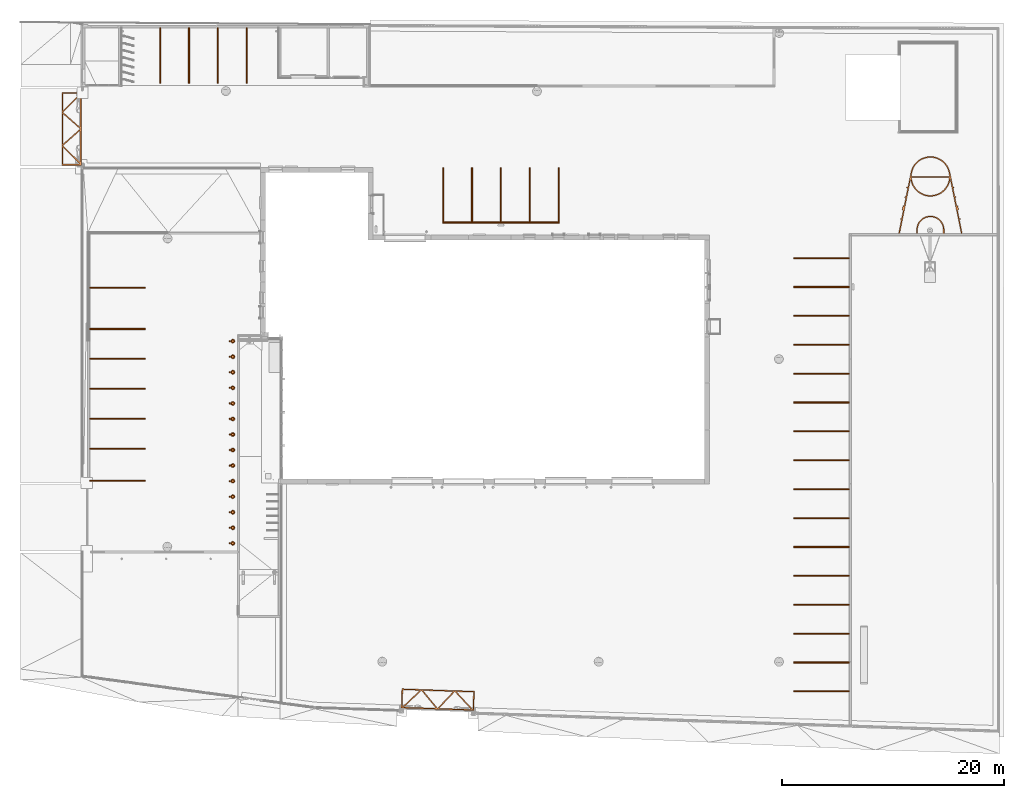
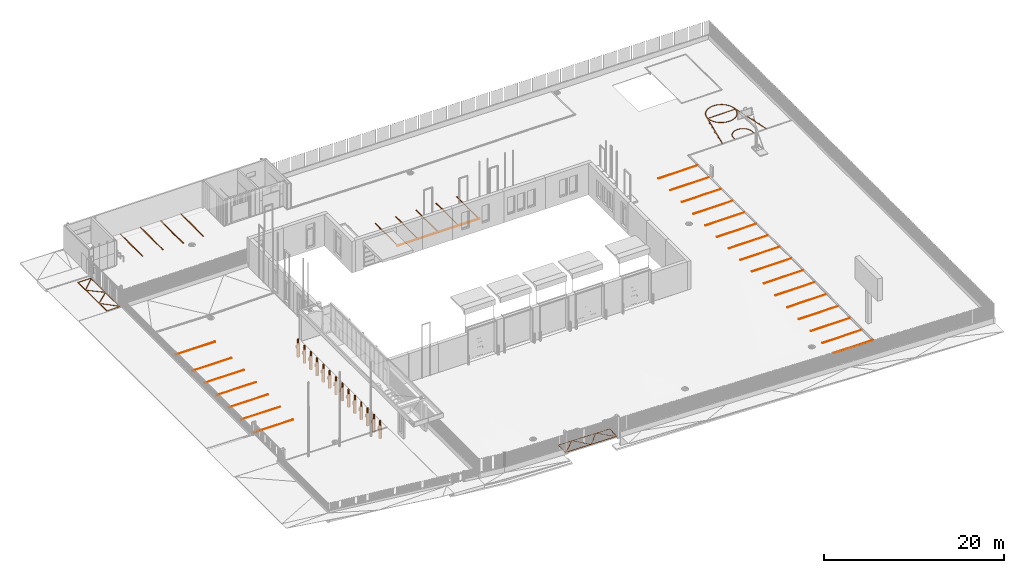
# One storey, part 76 of 77: 50 proxies.
"""IFC2X3 building model written with IfcOpenShell, lengths in millimetres."""

from ifc_helpers import new_model, entity, si_unit, converted_unit, derived_unit, direction, frame, frame_2d, origin, origin_2d_with_axis, place, context, subcontext, project, spatial, polyline, circle_curve, parameter, trimmed, segment, composite_curve, rectangle, circle, hollow_circle, outline, extrude, source, transform, mapped, material, material_list, type_object, type_shapes, element, save


model = new_model("IFC2X3")

# Units and contexts
model_context = context("Model", 3, precision=0.01, world=origin(), true_north=direction((6.12303176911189e-17, 1.0)))
body_context = subcontext(model_context, "Body", "Model", "MODEL_VIEW")
ifc_project = project(units=[si_unit("LENGTHUNIT", "METRE", prefix="MILLI"), si_unit("AREAUNIT", "SQUARE_METRE"), si_unit("VOLUMEUNIT", "CUBIC_METRE"), converted_unit("PLANEANGLEUNIT", "DEGREE", entity("IfcRatioMeasure", 0.0174532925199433), si_unit("PLANEANGLEUNIT", "RADIAN"), dimensions=[0, 0, 0, 0, 0, 0, 0]), si_unit("MASSUNIT", "GRAM", prefix="KILO"), derived_unit("MASSDENSITYUNIT", [(si_unit("MASSUNIT", "GRAM", prefix="KILO"), 1), (si_unit("LENGTHUNIT", "METRE"), -3)]), si_unit("TIMEUNIT", "SECOND"), si_unit("FREQUENCYUNIT", "HERTZ"), si_unit("THERMODYNAMICTEMPERATUREUNIT", "DEGREE_CELSIUS"), derived_unit("THERMALTRANSMITTANCEUNIT", [(si_unit("MASSUNIT", "GRAM", prefix="KILO"), 1), (si_unit("THERMODYNAMICTEMPERATUREUNIT", "KELVIN"), -1), (si_unit("TIMEUNIT", "SECOND"), -3)]), derived_unit("VOLUMETRICFLOWRATEUNIT", [(si_unit("LENGTHUNIT", "METRE"), 3), (si_unit("TIMEUNIT", "SECOND"), -1)]), si_unit("ELECTRICCURRENTUNIT", "AMPERE"), si_unit("ELECTRICVOLTAGEUNIT", "VOLT"), si_unit("POWERUNIT", "WATT"), si_unit("FORCEUNIT", "NEWTON", prefix="KILO"), si_unit("ILLUMINANCEUNIT", "LUX"), si_unit("LUMINOUSFLUXUNIT", "LUMEN"), si_unit("LUMINOUSINTENSITYUNIT", "CANDELA"), derived_unit("USERDEFINED", [(si_unit("MASSUNIT", "GRAM", prefix="KILO"), -1), (si_unit("LENGTHUNIT", "METRE"), -2), (si_unit("TIMEUNIT", "SECOND"), 3), (si_unit("LUMINOUSFLUXUNIT", "LUMEN"), 1)]), derived_unit("LINEARVELOCITYUNIT", [(si_unit("LENGTHUNIT", "METRE"), 1), (si_unit("TIMEUNIT", "SECOND"), -1)]), si_unit("PRESSUREUNIT", "PASCAL"), derived_unit("USERDEFINED", [(si_unit("LENGTHUNIT", "METRE"), -2), (si_unit("MASSUNIT", "GRAM", prefix="KILO"), 1), (si_unit("TIMEUNIT", "SECOND"), -2)])], contexts=[model_context])

# Site, building, storey
site_placement = place(None, origin())
site = spatial("IfcSite", under=ifc_project, at=site_placement, Name="Default", CompositionType="ELEMENT")
building_placement = place(site_placement, origin())
building = spatial("IfcBuilding", under=site, at=building_placement, CompositionType="ELEMENT")
storey_placement = place(building_placement, origin())
storey = spatial("IfcBuildingStorey", under=building, at=storey_placement, Name="1. KORRUS", CompositionType="ELEMENT", Elevation=0.0)

# Proxies
ifc_material_1 = material(Name="teekattemärgistus")
building_element_proxy_type_1 = type_object("IfcBuildingElementProxyType", Name="parkimine5m", PredefinedType="NOTDEFINED", material=ifc_material_1)
shared_shape_1 = source(origin(), body_context, "Body", "SweptSolid", [
    extrude(rectangle(XDim=99.9999999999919, YDim=5000.0, at=frame_2d((2.01438865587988e-12, 0.0), x_axis=(1.0, 0.0))), frame((0.0, -2500.0, 0.0), z_axis=(0.0, 0.0, 1.0), x_axis=(-1.0, 0.0, 0.0)), (0.0, 0.0, 1.0), 20.0),
])
type_shapes(building_element_proxy_type_1, [shared_shape_1])
for number, where, z_axis, x_axis, name in (
    (1, (-15848.8939697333, -150.0, -130.0), (0.0, 0.0, 1.0), (0.0, 1.0, 0.0), "parkimine5m:parkimine5m"),
    (2, (52550.0, -19125.5959184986, -31.2942237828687), (0.0, 0.0, 1.0), (0.0, -1.0, 0.0), "parkimine5m:parkimine5m"),
    (3, (52550.0, -16525.5959184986, -258.677233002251), (0.0, 0.0, 1.0), (0.0, -1.0, 0.0), "parkimine5m:parkimine5m"),
    (4, (52550.0, -13925.5959184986, -222.883938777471), (0.0, 0.0, 1.0), (0.0, -1.0, 0.0), "parkimine5m:parkimine5m"),
    (5, (52550.0, -11325.5959184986, -182.383938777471), (0.0, 0.0, 1.0), (0.0, -1.0, 0.0), "parkimine5m:parkimine5m"),
    (6, (52550.0, -8725.59591849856, -143.383938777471), (0.0, 0.0, 1.0), (0.0, -1.0, 0.0), "parkimine5m:parkimine5m"),
    (7, (52550.0, -6125.59591849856, -104.383938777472), (0.0, 0.0, 1.0), (0.0, -1.0, 0.0), "parkimine5m:parkimine5m"),
    (8, (52550.0, -3525.59591849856, -66.8839387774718), (0.0, 0.0, 1.0), (0.0, -1.0, 0.0), "parkimine5m:parkimine5m"),
    (9, (52550.0, -925.595918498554, -27.8839387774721), (0.0, 0.0, 1.0), (0.0, -1.0, 0.0), "parkimine5m:parkimine5m"),
    (10, (52550.0, 1674.40408150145, -37.4728899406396), (0.0, 0.0, 1.0), (0.0, -1.0, 0.0), "parkimine5m:parkimine5m"),
    (11, (52550.0, 4274.40408150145, -58.3657470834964), (0.0, 0.0, 1.0), (0.0, -1.0, 0.0), "parkimine5m:parkimine5m"),
    (12, (52550.0, 6874.40408150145, -79.2586042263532), (0.0, 0.0, 1.0), (0.0, -1.0, 0.0), "parkimine5m:parkimine5m"),
    (13, (52550.0, 9474.40408150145, -100.15146136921), (0.0, 0.0, 1.0), (0.0, -1.0, 0.0), "parkimine5m:parkimine5m"),
    (14, (52550.0, 12074.4040815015, -99.7592529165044), (0.0, 0.0, 1.0), (0.0, -1.0, 0.0), "parkimine5m:parkimine5m"),
    (15, (52550.0, 14674.4040815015, -78.8663957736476), (0.0, 0.0, 1.0), (0.0, -1.0, 0.0), "parkimine5m:parkimine5m"),
    (16, (52550.0, 17274.4040815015, -57.9735386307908), (0.0, 0.0, 1.0), (0.0, -1.0, 0.0), "parkimine5m:parkimine5m"),
    (17, (52550.0, 19874.4040815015, -37.0806814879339), (0.0, 0.0, 1.0), (0.0, -1.0, 0.0), "parkimine5m:parkimine5m"),
):
    element("IfcBuildingElementProxy", number, at=place(storey_placement, frame(where, z_axis=z_axis, x_axis=x_axis)), inside=storey, type_object=building_element_proxy_type_1, material=ifc_material_1, Name=name, ObjectType="parkimine5m", context=body_context, shape_type="MappedRepresentation", body=[
        mapped(shared_shape_1, transform((0.0, 0.0, 0.0), scale=1.0)),
    ])
for number, where, name in (
    (18, (-9500.23518671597, 40600.0994344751, -120.147064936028), "parkimine5m:parkimine5m"),
    (19, (-6900.23518671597, 40600.0994344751, -142.22660545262), "parkimine5m:parkimine5m"),
    (20, (-4300.23518671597, 40600.0994344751, -164.306145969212), "parkimine5m:parkimine5m"),
):
    element("IfcBuildingElementProxy", number, at=place(storey_placement, frame(where)), inside=storey, type_object=building_element_proxy_type_1, material=ifc_material_1, Name=name, ObjectType="parkimine5m", context=body_context, shape_type="MappedRepresentation", body=[
        mapped(shared_shape_1, transform((0.0, 0.0, 0.0), scale=1.0)),
    ])
for number, where, z_axis, x_axis, name in (
    (21, (-15848.8939697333, 2700.0, -110.0), (0.0, 0.0, 1.0), (0.0, 1.0, 0.0), "parkimine5m:parkimine5m"),
    (22, (-15848.8939697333, 5400.0, -87.4848755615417), (0.0, 0.0, 1.0), (0.0, 1.0, 0.0), "parkimine5m:parkimine5m"),
    (23, (-15848.8939697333, 8100.0, -65.0), (0.0, 0.0, 1.0), (0.0, 1.0, 0.0), "parkimine5m:parkimine5m"),
    (24, (-15848.8939697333, 10800.0, -45.0), (0.0, 0.0, 1.0), (0.0, 1.0, 0.0), "parkimine5m:parkimine5m"),
    (25, (-15848.8939697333, 13500.0, -45.0), (0.0, 0.0, 1.0), (0.0, 1.0, 0.0), "parkimine5m:parkimine5m"),
    (26, (-15848.8939697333, 17200.0, -85.0), (0.0, 0.0, 1.0), (0.0, 1.0, 0.0), "parkimine5m:parkimine5m"),
):
    element("IfcBuildingElementProxy", number, at=place(storey_placement, frame(where, z_axis=z_axis, x_axis=x_axis)), inside=storey, type_object=building_element_proxy_type_1, material=ifc_material_1, Name=name, ObjectType="parkimine5m", context=body_context, shape_type="MappedRepresentation", body=[
        mapped(shared_shape_1, transform((0.0, 0.0, 0.0), scale=1.0)),
    ])
for number, where, name in (
    (27, (15980.0, 28030.0, -20.0), "parkimine5m:parkimine5m"),
    (28, (18580.0, 28030.0, -20.0), "parkimine5m:parkimine5m"),
    (29, (21180.0, 28030.0, -20.0), "parkimine5m:parkimine5m"),
    (30, (23780.0, 28030.0, -20.0), "parkimine5m:parkimine5m"),
    (31, (26380.0, 28030.0, -20.0), "parkimine5m:parkimine5m"),
    (32, (-1700.23518671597, 40600.0994344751, -153.8473731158), "parkimine5m:parkimine5m"),
):
    element("IfcBuildingElementProxy", number, at=place(storey_placement, frame(where)), inside=storey, type_object=building_element_proxy_type_1, material=ifc_material_1, Name=name, ObjectType="parkimine5m", context=body_context, shape_type="MappedRepresentation", body=[
        mapped(shared_shape_1, transform((0.0, 0.0, 0.0), scale=1.0)),
    ])
ifc_material_2 = material(Name="Metal - Tiso - Galvanized and powder coated")
ifc_material_3 = material(Name="Plastic - Tiso - Painted")
ifc_material_list_1 = material_list([ifc_material_2, ifc_material_3])
ifc_material_list_2 = material_list([ifc_material_2, ifc_material_3])
building_element_proxy_type_2 = type_object("IfcBuildingElementProxyType", Name="High security automatic bollard M30 (RB348)", PredefinedType="NOTDEFINED", material=ifc_material_list_2)
shared_shape_2 = source(origin(), body_context, "Body", "SweptSolid", [
    extrude(hollow_circle(Radius=60.0, WallThickness=40.0, at=frame_2d((6.01112009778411e-28, -9.69326744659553e-14), x_axis=(1.0, 0.0))), frame((0.0, 0.0, 0.0), z_axis=(0.0, 0.0, 1.0), x_axis=(0.0, 1.0, 0.0)), (0.0, 0.0, 1.0), 2.0),
    extrude(circle(Radius=190.0, at=frame_2d((-1.30769905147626e-14, -3.06953469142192e-13), x_axis=(1.0, 0.0))), frame((0.0, 0.0, -111.0), z_axis=(0.0, 0.0, 1.0), x_axis=(0.0, 1.0, 0.0)), (0.0, 0.0, 1.0), 111.0),
    extrude(circle(Radius=190.0, at=frame_2d((-1.14523447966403e-14, -3.06953469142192e-13), x_axis=(1.0, 0.0))), frame((0.0, 0.0, -1743.0), z_axis=(0.0, 0.0, 1.0), x_axis=(0.0, 1.0, 0.0)), (0.0, 0.0, 1.0), 1632.0),
    extrude(circle(Radius=110.0, at=frame_2d((3.82856826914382e-17, -1.77709903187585e-13), x_axis=(1.0, 0.0))), frame((0.0, 0.0, 2.0)), (0.0, 0.0, 1.0), 575.0),
    extrude(circle(Radius=110.0, at=frame_2d((0.0, -1.77709903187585e-13), x_axis=(1.0, 0.0))), frame((0.0, 0.0, 577.0)), (0.0, 0.0, 1.0), 23.0),
    extrude(circle(Radius=26.0, at=frame_2d((-1.32185928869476e-15, -1.35358391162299e-13), x_axis=(1.0, 0.0))), frame((-341.0, 0.0, -379.517404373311), z_axis=(1.0, 0.0, 0.0), x_axis=(0.0, 1.0, 0.0)), (0.0, 0.0, 1.0), 42.0),
    extrude(circle(Radius=26.0, at=frame_2d((-4.33703580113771e-28, -1.35358391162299e-13), x_axis=(1.0, 0.0))), frame((-341.0, 35.2097481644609, -459.517404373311), z_axis=(1.0, 0.0, 0.0), x_axis=(0.0, 1.0, 0.0)), (0.0, 0.0, 1.0), 42.0),
    extrude(circle(Radius=26.0, at=frame_2d((-4.33703580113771e-28, -1.35358391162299e-13), x_axis=(1.0, 0.0))), frame((-341.0, -35.2097481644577, -458.065397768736), z_axis=(1.0, 0.0, 0.0), x_axis=(0.0, 1.0, 0.0)), (0.0, 0.0, 1.0), 42.0),
    extrude(rectangle(XDim=109.0, YDim=158.419496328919, at=origin_2d_with_axis()), frame((-244.5, 0.0, -503.2), z_axis=(0.0, 0.0, 1.0), x_axis=(-1.0, 0.0, 0.0)), (0.0, 0.0, 1.0), 363.6),
])
type_shapes(building_element_proxy_type_2, [shared_shape_2])
proxy_1_placement = place(storey_placement, frame((-2950.07453708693, 12400.0, -175.0)))
element("IfcBuildingElementProxy", 33, at=proxy_1_placement, inside=storey, type_object=building_element_proxy_type_2, material=ifc_material_list_1, Name="bollard:High security automatic bollard M30 (RB348)", ObjectType="High security automatic bollard M30 (RB348)", context=body_context, shape_type="MappedRepresentation", body=[
    mapped(shared_shape_2, transform((0.0, 0.0, 0.0), scale=1.0)),
])
ifc_material_list_3 = material_list([ifc_material_2, ifc_material_3])
proxy_2_placement = place(storey_placement, frame((-2950.07453708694, 11000.0, -175.0)))
element("IfcBuildingElementProxy", 34, at=proxy_2_placement, inside=storey, type_object=building_element_proxy_type_2, material=ifc_material_list_3, Name="bollard:High security automatic bollard M30 (RB348)", ObjectType="High security automatic bollard M30 (RB348)", context=body_context, shape_type="MappedRepresentation", body=[
    mapped(shared_shape_2, transform((0.0, 0.0, 0.0), scale=1.0)),
])
ifc_material_list_4 = material_list([ifc_material_2, ifc_material_3])
proxy_3_placement = place(storey_placement, frame((-2950.07453708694, 9600.0, -175.0)))
element("IfcBuildingElementProxy", 35, at=proxy_3_placement, inside=storey, type_object=building_element_proxy_type_2, material=ifc_material_list_4, Name="bollard:High security automatic bollard M30 (RB348)", ObjectType="High security automatic bollard M30 (RB348)", context=body_context, shape_type="MappedRepresentation", body=[
    mapped(shared_shape_2, transform((0.0, 0.0, 0.0), scale=1.0)),
])
ifc_material_list_5 = material_list([ifc_material_2, ifc_material_3])
proxy_4_placement = place(storey_placement, frame((-2950.07453708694, 8200.0, -175.0)))
element("IfcBuildingElementProxy", 36, at=proxy_4_placement, inside=storey, type_object=building_element_proxy_type_2, material=ifc_material_list_5, Name="bollard:High security automatic bollard M30 (RB348)", ObjectType="High security automatic bollard M30 (RB348)", context=body_context, shape_type="MappedRepresentation", body=[
    mapped(shared_shape_2, transform((0.0, 0.0, 0.0), scale=1.0)),
])
ifc_material_list_6 = material_list([ifc_material_2, ifc_material_3])
proxy_5_placement = place(storey_placement, frame((-2950.07453708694, 6800.0, -175.0)))
element("IfcBuildingElementProxy", 37, at=proxy_5_placement, inside=storey, type_object=building_element_proxy_type_2, material=ifc_material_list_6, Name="bollard:High security automatic bollard M30 (RB348)", ObjectType="High security automatic bollard M30 (RB348)", context=body_context, shape_type="MappedRepresentation", body=[
    mapped(shared_shape_2, transform((0.0, 0.0, 0.0), scale=1.0)),
])
ifc_material_list_7 = material_list([ifc_material_2, ifc_material_3])
proxy_6_placement = place(storey_placement, frame((-2950.07453708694, 5400.0, -175.0)))
element("IfcBuildingElementProxy", 38, at=proxy_6_placement, inside=storey, type_object=building_element_proxy_type_2, material=ifc_material_list_7, Name="bollard:High security automatic bollard M30 (RB348)", ObjectType="High security automatic bollard M30 (RB348)", context=body_context, shape_type="MappedRepresentation", body=[
    mapped(shared_shape_2, transform((0.0, 0.0, 0.0), scale=1.0)),
])
ifc_material_list_8 = material_list([ifc_material_2, ifc_material_3])
proxy_7_placement = place(storey_placement, frame((-2950.07453708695, 4000.0, -175.0)))
element("IfcBuildingElementProxy", 39, at=proxy_7_placement, inside=storey, type_object=building_element_proxy_type_2, material=ifc_material_list_8, Name="bollard:High security automatic bollard M30 (RB348)", ObjectType="High security automatic bollard M30 (RB348)", context=body_context, shape_type="MappedRepresentation", body=[
    mapped(shared_shape_2, transform((0.0, 0.0, 0.0), scale=1.0)),
])
ifc_material_list_9 = material_list([ifc_material_2, ifc_material_3])
proxy_8_placement = place(storey_placement, frame((-2950.07453708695, 2600.0, -175.0)))
element("IfcBuildingElementProxy", 40, at=proxy_8_placement, inside=storey, type_object=building_element_proxy_type_2, material=ifc_material_list_9, Name="bollard:High security automatic bollard M30 (RB348)", ObjectType="High security automatic bollard M30 (RB348)", context=body_context, shape_type="MappedRepresentation", body=[
    mapped(shared_shape_2, transform((0.0, 0.0, 0.0), scale=1.0)),
])
ifc_material_list_10 = material_list([ifc_material_2, ifc_material_3])
proxy_9_placement = place(storey_placement, frame((-2950.07453708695, 1200.0, -175.0)))
element("IfcBuildingElementProxy", 41, at=proxy_9_placement, inside=storey, type_object=building_element_proxy_type_2, material=ifc_material_list_10, Name="bollard:High security automatic bollard M30 (RB348)", ObjectType="High security automatic bollard M30 (RB348)", context=body_context, shape_type="MappedRepresentation", body=[
    mapped(shared_shape_2, transform((0.0, 0.0, 0.0), scale=1.0)),
])
ifc_material_list_11 = material_list([ifc_material_2, ifc_material_3])
proxy_10_placement = place(storey_placement, frame((-2950.07453708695, -200.0, -175.0)))
element("IfcBuildingElementProxy", 42, at=proxy_10_placement, inside=storey, type_object=building_element_proxy_type_2, material=ifc_material_list_11, Name="bollard:High security automatic bollard M30 (RB348)", ObjectType="High security automatic bollard M30 (RB348)", context=body_context, shape_type="MappedRepresentation", body=[
    mapped(shared_shape_2, transform((0.0, 0.0, 0.0), scale=1.0)),
])
ifc_material_list_12 = material_list([ifc_material_2, ifc_material_3])
proxy_11_placement = place(storey_placement, frame((-2950.07453708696, -1600.0, -175.0)))
element("IfcBuildingElementProxy", 43, at=proxy_11_placement, inside=storey, type_object=building_element_proxy_type_2, material=ifc_material_list_12, Name="bollard:High security automatic bollard M30 (RB348)", ObjectType="High security automatic bollard M30 (RB348)", context=body_context, shape_type="MappedRepresentation", body=[
    mapped(shared_shape_2, transform((0.0, 0.0, 0.0), scale=1.0)),
])
ifc_material_list_13 = material_list([ifc_material_2, ifc_material_3])
proxy_12_placement = place(storey_placement, frame((-2950.07453708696, -3000.0, -175.0)))
element("IfcBuildingElementProxy", 44, at=proxy_12_placement, inside=storey, type_object=building_element_proxy_type_2, material=ifc_material_list_13, Name="bollard:High security automatic bollard M30 (RB348)", ObjectType="High security automatic bollard M30 (RB348)", context=body_context, shape_type="MappedRepresentation", body=[
    mapped(shared_shape_2, transform((0.0, 0.0, 0.0), scale=1.0)),
])
ifc_material_list_14 = material_list([ifc_material_2, ifc_material_3])
proxy_13_placement = place(storey_placement, frame((-2950.07453708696, -4400.0, -175.0)))
element("IfcBuildingElementProxy", 45, at=proxy_13_placement, inside=storey, type_object=building_element_proxy_type_2, material=ifc_material_list_14, Name="bollard:High security automatic bollard M30 (RB348)", ObjectType="High security automatic bollard M30 (RB348)", context=body_context, shape_type="MappedRepresentation", body=[
    mapped(shared_shape_2, transform((0.0, 0.0, 0.0), scale=1.0)),
])
ifc_material_list_15 = material_list([ifc_material_2, ifc_material_3])
proxy_14_placement = place(storey_placement, frame((-2950.07453708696, -5800.0, -175.0)))
element("IfcBuildingElementProxy", 46, at=proxy_14_placement, inside=storey, type_object=building_element_proxy_type_2, material=ifc_material_list_15, Name="bollard:High security automatic bollard M30 (RB348)", ObjectType="High security automatic bollard M30 (RB348)", context=body_context, shape_type="MappedRepresentation", body=[
    mapped(shared_shape_2, transform((0.0, 0.0, 0.0), scale=1.0)),
])
building_element_proxy_type_3 = type_object("IfcBuildingElementProxyType", Name="varav-teekate", PredefinedType="NOTDEFINED", material=ifc_material_1)
shared_shape_3 = source(origin(), body_context, "Body", "SweptSolid", [
    extrude(outline(polyline([(-875.0, -3275.0), (875.0, -3275.0), (875.0, 3275.0), (-875.0, 3275.0), (-875.0, -3275.0)]), holes=[polyline([(775.0, -3175.0), (-775.0, -3175.0), (-775.0, -1640.70664672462), (775.0, -3175.0)]), polyline([(775.0, 133.320857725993), (-775.0, 1500.0), (775.0, 3034.29335327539), (775.0, 133.320857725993)]), polyline([(-775.0, 1366.67914227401), (775.0, 0.0), (-775.0, -1366.67914227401), (-775.0, 1366.67914227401)]), polyline([(-775.0, -1500.0), (775.0, -133.320857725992), (775.0, -3034.29335327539), (-775.0, -1500.0)]), polyline([(-775.0, 1640.70664672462), (-775.0, 3175.0), (775.0, 3175.0), (-775.0, 1640.70664672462)])]), frame((2950.0, -875.0, 0.0), z_axis=(0.0, 0.0, 1.0), x_axis=(0.0, 1.0, 0.0)), (0.0, 0.0, 1.0), 20.0),
])
type_shapes(building_element_proxy_type_3, [shared_shape_3])
for number, where, z_axis, x_axis in (
    (47, (-16589.9580254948, 34455.066568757, -81.7707560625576), (0.0, 0.010589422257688, 0.99994393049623), (0.0, -0.999943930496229, 0.010589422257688)),
    (48, (18422.9531108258, -20845.2588051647, -194.634222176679), (-0.00869706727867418, 0.019488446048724, 0.999772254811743), (-0.999369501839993, 0.0342486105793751, -0.00936116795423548)),
):
    element("IfcBuildingElementProxy", number, at=place(storey_placement, frame(where, z_axis=z_axis, x_axis=x_axis)), inside=storey, type_object=building_element_proxy_type_3, material=ifc_material_1, Name="varav-teekate:varav-teekate", ObjectType="varav-teekate", context=body_context, shape_type="MappedRepresentation", body=[
        mapped(shared_shape_3, transform((0.0, 0.0, 0.0), scale=1.0)),
    ])
building_element_proxy_type_4 = type_object("IfcBuildingElementProxyType", Name="joon10,5", PredefinedType="NOTDEFINED", material=ifc_material_1)
shared_shape_4 = source(origin(), body_context, "Body", "SweptSolid", [
    extrude(rectangle(XDim=99.9999999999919, YDim=10500.0, at=origin_2d_with_axis()), frame((0.0, -5250.0, 0.0), z_axis=(0.0, 0.0, 1.0), x_axis=(-1.0, 0.0, 0.0)), (0.0, 0.0, 1.0), 20.0),
])
type_shapes(building_element_proxy_type_4, [shared_shape_4])
proxy_15_placement = place(storey_placement, frame((26430.0, 23080.0, -20.0), z_axis=(0.0, 0.0, 1.0), x_axis=(0.0, -1.0, 0.0)))
element("IfcBuildingElementProxy", 49, at=proxy_15_placement, inside=storey, type_object=building_element_proxy_type_4, material=ifc_material_1, Name="parkimine5m:joon10,5", ObjectType="joon10,5", context=body_context, shape_type="MappedRepresentation", body=[
    mapped(shared_shape_4, transform((0.0, 0.0, 0.0), scale=1.0)),
])
building_element_proxy_type_5 = type_object("IfcBuildingElementProxyType", Name="korvpalli-jooned", PredefinedType="NOTDEFINED", material=ifc_material_1)
shared_shape_5 = source(origin(), body_context, "Body", "SweptSolid", [
    extrude(outline(composite_curve([segment(polyline([(2274.80286137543, -1971.40901184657), (2374.80286137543, -1971.40901184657)]), True, "CONTINUOUS"), segment(polyline([(2374.80286137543, -1971.40901184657), (2374.80286137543, -1871.40901184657)]), True, "CONTINUOUS"), segment(polyline([(2374.80286137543, -1871.40901184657), (2274.80286137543, -1871.40901184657)]), True, "CONTINUOUS"), segment(polyline([(2274.80286137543, -1871.40901184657), (2274.80286137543, -1098.47471325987)]), True, "CONTINUOUS"), segment(polyline([(2274.80286137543, -1098.47471325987), (2374.80286137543, -1098.47471325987)]), True, "CONTINUOUS"), segment(polyline([(2374.80286137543, -1098.47471325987), (2374.80286137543, -698.474713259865)]), True, "CONTINUOUS"), segment(polyline([(2374.80286137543, -698.474713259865), (2274.80286137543, -698.474713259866)]), True, "CONTINUOUS"), segment(polyline([(2274.80286137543, -698.474713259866), (2274.80286137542, 68.4767248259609)]), True, "CONTINUOUS"), segment(polyline([(2274.80286137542, 68.4767248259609), (2374.80286137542, 68.4767248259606)]), True, "CONTINUOUS"), segment(polyline([(2374.80286137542, 68.4767248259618), (2374.80286137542, 168.476724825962)]), True, "CONTINUOUS"), segment(polyline([(2374.80286137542, 168.476724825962), (2274.80286137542, 168.47672482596)]), True, "CONTINUOUS"), segment(polyline([(2274.80286137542, 168.476724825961), (2274.80286137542, 935.428162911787)]), True, "CONTINUOUS"), segment(polyline([(2274.80286137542, 935.428162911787), (2374.80286137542, 935.428162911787)]), True, "CONTINUOUS"), segment(polyline([(2374.80286137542, 935.428162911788), (2374.80286137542, 1035.42816291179)]), True, "CONTINUOUS"), segment(polyline([(2374.80286137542, 1035.42816291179), (2274.80286137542, 1035.42816291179)]), True, "CONTINUOUS"), segment(polyline([(2274.80286137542, 1035.42816291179), (2274.80286137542, 2365.64718207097)]), True, "CONTINUOUS"), segment(trimmed(circle_curve(frame_2d((474.802861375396, 2365.64718207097), x_axis=(0.98044707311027, -0.19678296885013)), 1800.0), [parameter(11.3488985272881)], [parameter(168.651101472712)], True, "PARAMETER"), True, "CONTINUOUS"), segment(polyline([(-1185.79240603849, 3060.21421112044), (-1699.08477943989, 1833.01676232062)]), True, "CONTINUOUS"), segment(polyline([(-1699.08477943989, 1833.01676232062), (-1791.340072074, 1871.60381949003)]), True, "CONTINUOUS"), segment(polyline([(-1791.340072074, 1871.60381949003), (-1829.92712924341, 1779.34852685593)]), True, "CONTINUOUS"), segment(polyline([(-1829.92712924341, 1779.34852685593), (-1737.67183660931, 1740.76146968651)]), True, "CONTINUOUS"), segment(polyline([(-1737.67183660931, 1740.76146968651), (-2033.61582648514, 1033.20817611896)]), True, "CONTINUOUS"), segment(polyline([(-2033.61582648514, 1033.20817611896), (-2125.87111911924, 1071.79523328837)]), True, "CONTINUOUS"), segment(polyline([(-2125.87111911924, 1071.79523328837), (-2164.45817628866, 979.539940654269)]), True, "CONTINUOUS"), segment(polyline([(-2164.45817628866, 979.539940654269), (-2072.20288365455, 940.952883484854)]), True, "CONTINUOUS"), segment(polyline([(-2072.20288365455, 940.952883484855), (-2368.14687353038, 233.3995899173)]), True, "CONTINUOUS"), segment(polyline([(-2368.14687353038, 233.3995899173), (-2460.40216616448, 271.986647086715)]), True, "CONTINUOUS"), segment(polyline([(-2460.40216616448, 271.986647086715), (-2614.75039484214, -97.0345234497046)]), True, "CONTINUOUS"), segment(polyline([(-2614.75039484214, -97.0345234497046), (-2522.49510220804, -135.62158061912)]), True, "CONTINUOUS"), segment(polyline([(-2522.49510220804, -135.62158061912), (-2820.74770188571, -848.69437964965)]), True, "CONTINUOUS"), segment(polyline([(-2820.74770188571, -848.69437964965), (-2913.00299451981, -810.107322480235)]), True, "CONTINUOUS"), segment(polyline([(-2913.00299451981, -810.107322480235), (-2951.59005168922, -902.362615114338)]), True, "CONTINUOUS"), segment(polyline([(-2951.59005168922, -902.362615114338), (-2859.33475905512, -940.949672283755)]), True, "CONTINUOUS"), segment(polyline([(-2859.33475905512, -940.949672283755), (-3361.90086622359, -2142.50238674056)]), True, "CONTINUOUS"), segment(polyline([(-3361.90086622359, -2142.50238674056), (-3261.90086622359, -2162.57312530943)]), True, "CONTINUOUS"), segment(polyline([(-3261.90086622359, -2162.57312530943), (-1321.82122221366, 2475.83748231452)]), True, "CONTINUOUS"), segment(trimmed(circle_curve(frame_2d((474.802861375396, 2365.64718207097), x_axis=(0.98044707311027, -0.19678296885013)), 1800.0), [parameter(187.839237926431)], [parameter(352.160762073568)], True, "PARAMETER"), True, "CONTINUOUS"), segment(polyline([(2174.80286137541, 1774.03920376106), (2174.80286137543, -3253.75971724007)]), True, "CONTINUOUS"), segment(polyline([(2174.80286137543, -3253.75971724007), (2274.80286137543, -3273.83045580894)]), True, "CONTINUOUS"), segment(polyline([(2274.80286137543, -3273.83045580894), (2274.80286137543, -1971.40901184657)]), True, "CONTINUOUS")], self_intersect=False), holes=[composite_curve([segment(polyline([(-1208.7492930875, 2601.55424683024), (2118.99842206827, 1933.65070268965)]), True, "CONTINUOUS"), segment(trimmed(circle_curve(frame_2d((474.802861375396, 2365.64718207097), x_axis=(0.98044707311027, -0.19678296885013)), 1700.0), [parameter(183.372286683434)], [parameter(356.627713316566)], True, "PARAMETER"), False, "CONTINUOUS")], self_intersect=False), composite_curve([segment(trimmed(circle_curve(frame_2d((474.802861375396, 2365.64718207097), x_axis=(0.98044707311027, -0.19678296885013)), 1700.0), [parameter(3.56222124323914e-13)], [parameter(180.0)], True, "PARAMETER"), False, "CONTINUOUS"), segment(polyline([(2141.56288566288, 2031.11613502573), (-1191.95716291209, 2700.17822911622)]), True, "CONTINUOUS")], self_intersect=False)]), frame((0.0, -2412.82497235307, 0.0), z_axis=(0.0, 0.0, 1.0), x_axis=(0.980447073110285, 0.196782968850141, 0.0)), (0.0, 0.0, 1.0), 20.0),
    extrude(outline(composite_curve([segment(polyline([(-1150.0, -187.500000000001), (-1150.0, 187.499999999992)]), True, "CONTINUOUS"), segment(polyline([(-1150.0, 187.499999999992), (-1250.0, 187.499999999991)]), True, "CONTINUOUS"), segment(polyline([(-1250.0, 187.499999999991), (-1250.0, -187.500000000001)]), True, "CONTINUOUS"), segment(trimmed(circle_curve(frame_2d((0.0, -187.5), x_axis=(1.0, 0.0)), 1250.0), [parameter(180.0)], [parameter(5.08888749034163e-14)], True, "PARAMETER"), True, "CONTINUOUS"), segment(polyline([(1250.0, -187.500000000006), (1250.0, 187.499999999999)]), True, "CONTINUOUS"), segment(polyline([(1250.0, 187.499999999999), (1150.0, 187.499999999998)]), True, "CONTINUOUS"), segment(polyline([(1150.0, 187.499999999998), (1150.0, -187.499999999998)]), True, "CONTINUOUS"), segment(trimmed(circle_curve(frame_2d((0.0, -187.5), x_axis=(1.0, 0.0)), 1150.0), [parameter(180.0)], [parameter(360.0)], True, "PARAMETER"), False, "CONTINUOUS")], self_intersect=False)), frame((0.0, -4987.5, 0.0), z_axis=(0.0, 0.0, -1.0), x_axis=(1.0, 0.0, 0.0)), (0.0, 0.0, -1.0), 20.0),
])
type_shapes(building_element_proxy_type_5, [shared_shape_5])
proxy_16_placement = place(storey_placement, frame((59846.6287499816, 27226.7989534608, 5.80407891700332), z_axis=(-0.00898479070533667, 0.00768262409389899, 0.999930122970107), x_axis=(0.999959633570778, 0.0, 0.00898505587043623)))
element("IfcBuildingElementProxy", 50, at=proxy_16_placement, inside=storey, type_object=building_element_proxy_type_5, material=ifc_material_1, Name="korvpalli-jooned:korvpalli-jooned", ObjectType="korvpalli-jooned", context=body_context, shape_type="MappedRepresentation", body=[
    mapped(shared_shape_5, transform((0.0, 0.0, 0.0), scale=1.0)),
])

save(model, "model.ifc")
